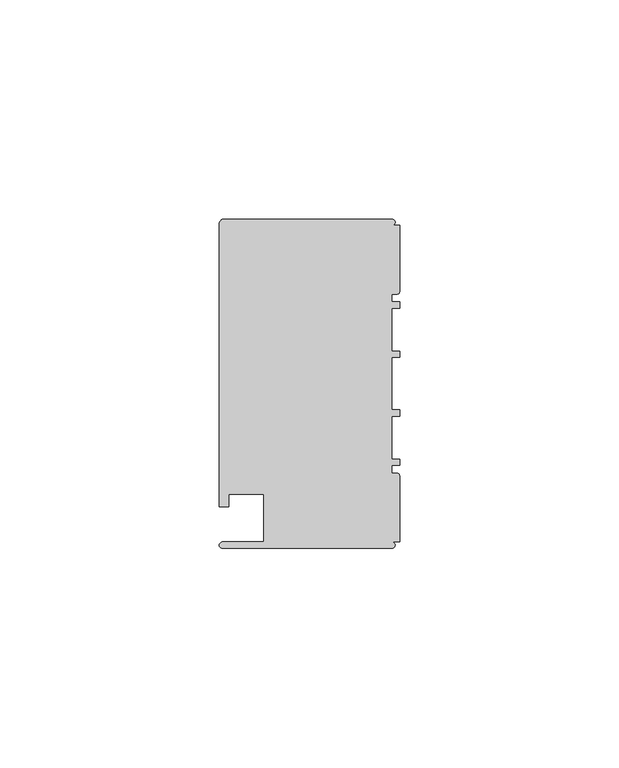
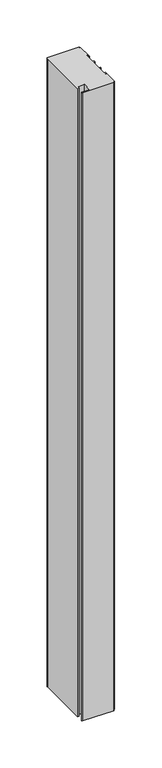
"""IFC4 building model written with IfcOpenShell, lengths in millimetres: member geometry, Прямоугольный импост : 1-AMG-1-Профиль 40Х75 Верх П."""

from ifc_helpers import new_model, si_unit, point, frame, frame_2d, origin, place, context, project, spatial, polyline, circle_curve, trimmed, segment, composite_curve, outline, extrude, source, transform, mapped, element, save


def member_247202b7(model_context):
    return source(origin(), model_context, "Body", "SweptSolid", [
        extrude(outline(composite_curve([segment(polyline([(-1.7, -37.5), (-40.4, -37.5)]), True, "CONTINUOUS"), segment(trimmed(circle_curve(frame_2d((-40.4, -36.8)), 0.7), [point((-40.4, -37.5))], [point((-40.4, -36.1))], False, "CARTESIAN"), True, "CONTINUOUS"), segment(polyline([(-40.4, -36.1), (-31.0, -36.1), (-31.0, -25.25), (-39.0, -25.25), (-39.0, -28.1), (-41.1, -28.1), (-41.1, 36.1)]), True, "CONTINUOUS"), segment(trimmed(circle_curve(frame_2d((-39.7541527, 36.3020763)), 1.3609334), [point((-41.1, 36.1))], [point((-40.4, 37.5))], False, "CARTESIAN"), True, "CONTINUOUS"), segment(polyline([(-40.4, 37.5), (-1.7, 37.5)]), True, "CONTINUOUS"), segment(trimmed(circle_curve(frame_2d((-1.7, 36.8)), 0.7), [point((-1.7, 37.5))], [point((-1.7, 36.1))], False, "CARTESIAN"), True, "CONTINUOUS"), segment(polyline([(-1.7, 36.1), (0.0, 36.1), (0.0, 20.95)]), True, "CONTINUOUS"), segment(trimmed(circle_curve(frame_2d((-0.5, 20.95)), 0.5), [point((0.0, 20.95))], [point((-0.5, 20.45))], False, "CARTESIAN"), True, "CONTINUOUS"), segment(polyline([(-0.5, 20.45), (-1.8, 20.45), (-1.8, 18.65), (0.0, 18.65), (0.0, 17.25), (-1.8, 17.25), (-1.8, 7.4), (0.0, 7.4), (0.0, 6.0), (-1.8, 6.0), (-1.8, -6.0), (0.0, -6.0), (0.0, -7.4), (-1.8, -7.4), (-1.8, -17.25), (0.0, -17.25), (0.0, -18.65), (-1.8, -18.65), (-1.8, -20.45), (-0.5, -20.45)]), True, "CONTINUOUS"), segment(trimmed(circle_curve(frame_2d((-0.5, -20.95)), 0.5), [point((-0.5, -20.45))], [point((0.0, -20.95))], False, "CARTESIAN"), True, "CONTINUOUS"), segment(polyline([(0.0, -20.95), (0.0, -36.1), (-1.7, -36.1)]), True, "CONTINUOUS"), segment(trimmed(circle_curve(frame_2d((-1.7, -36.8)), 0.7), [point((-1.7, -36.1))], [point((-1.7, -37.5))], False, "CARTESIAN"), True, "CONTINUOUS")], self_intersect=False)), frame((0.0, 0.0, -817.7849139), z_axis=(0.0, 0.0, 1.0), x_axis=(1.0, 0.0, 0.0)), (0.0, 0.0, 1.0), 817.7849139),
    ])


if __name__ == "__main__":
    model = new_model("IFC4")
    model_context = context("Model", 3, world=origin())
    ifc_project = project(units=[si_unit("LENGTHUNIT", "METRE", prefix="MILLI")], contexts=[model_context])
    site = spatial("IfcSite", under=ifc_project)
    building = spatial("IfcBuilding", under=site)
    placement = place(None, origin())
    member_shape = member_247202b7(model_context)
    element("IfcMember", 1, ObjectType="Прямоугольный импост : 1-AMG-1-Профиль 40Х75 Верх П", at=placement, inside=building, context=model_context, shape_type="MappedRepresentation", body=[
        mapped(member_shape, transform((0.0, 0.0, 0.0), x_axis=(1.0, 0.0, 0.0), y_axis=(0.0, 1.0, 0.0), z_axis=(0.0, 0.0, 1.0))),
    ])
    save(model, "model.ifc")
